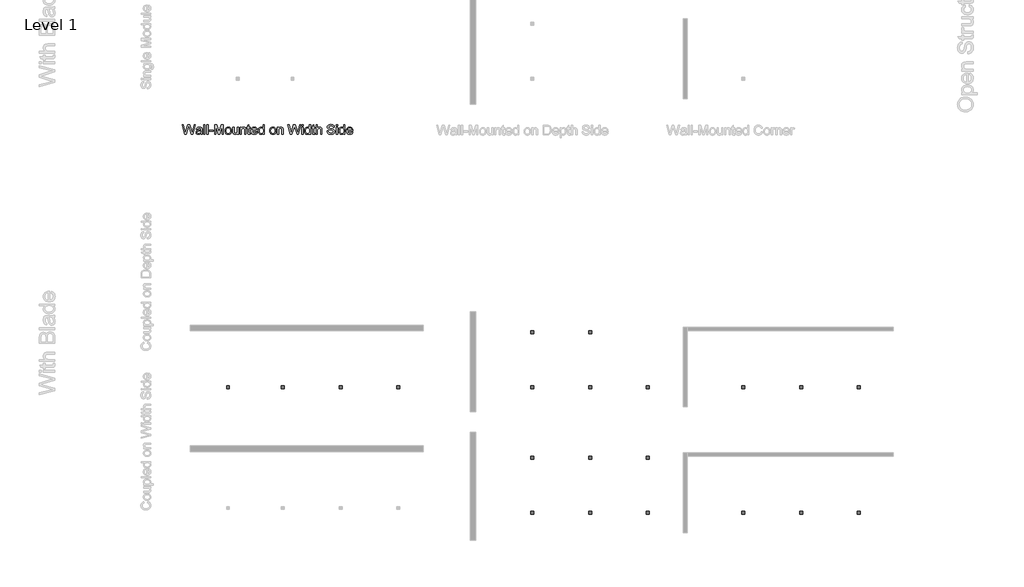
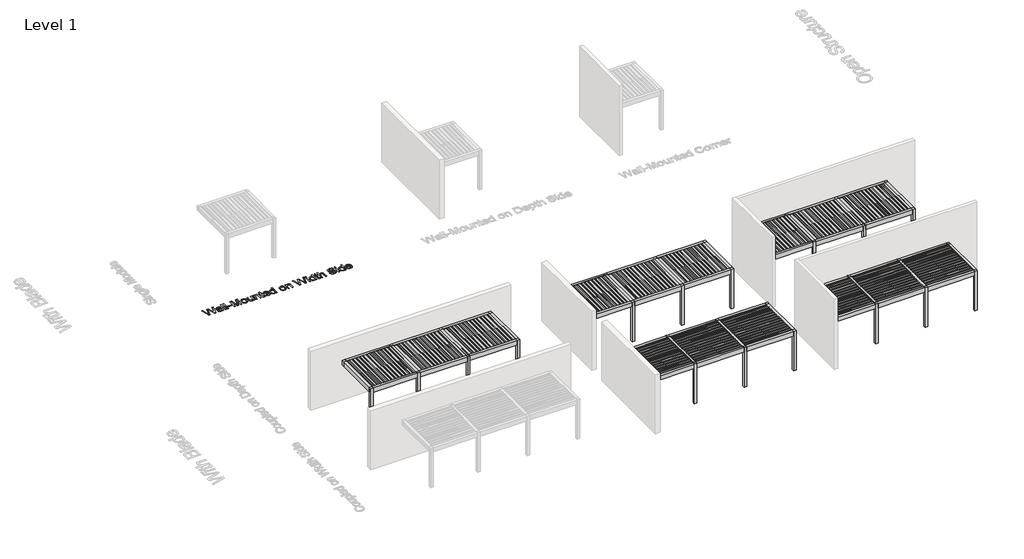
# One storey, part 58 of 80: 6 proxies.
"""IFC4 building model written with IfcOpenShell, lengths in millimetres."""

from ifc_helpers import new_model, si_unit, origin, origin_with_axes, place, context, project, spatial, polyline, outline, extrude, transform, mapped, element, save
from components import generic_models_d71375b3, generic_models_6e23cace, generic_models_89963777, generic_models_5a9e4830, generic_models_91610d27

model = new_model("IFC4")

# Units and contexts
model_context = context("Model", 3, world=origin())
ifc_project = project(units=[si_unit("LENGTHUNIT", "METRE", prefix="MILLI")], contexts=[model_context])

# Site, building, storey
site = spatial("IfcSite", under=ifc_project)
building = spatial("IfcBuilding", under=site)
storey = spatial("IfcBuildingStorey", under=building, Name="Level 1", Elevation=0.0)

# Proxies
placement = place(None, origin())
generic_models_shape = generic_models_d71375b3(model_context)
element("IfcBuildingElementProxy", 1, Name="Renson_Amani_Patio_Cover : Renson_Amani_Patio_Cover", ObjectType="Renson_Amani_Patio_Cover : Renson_Amani_Patio_Cover", at=placement, inside=storey, context=model_context, shape_type="MappedRepresentation", body=[
    mapped(generic_models_shape, transform((131453.165057, 51509.4960358, 0.0), x_axis=(1.0, 0.0, 0.0), y_axis=(0.0, 1.0, 0.0), z_axis=(0.0, 0.0, 1.0))),
])
generic_models_2_shape = generic_models_6e23cace(model_context)
element("IfcBuildingElementProxy", 2, Name="Renson_Amani_Patio_Cover : Renson_Amani_Patio_Cover", ObjectType="Renson_Amani_Patio_Cover : Renson_Amani_Patio_Cover", at=placement, inside=storey, context=model_context, shape_type="MappedRepresentation", body=[
    mapped(generic_models_2_shape, transform((144410.3328818, 51509.4960358, 0.0), x_axis=(1.0, 0.0, 0.0), y_axis=(0.0, 1.0, 0.0), z_axis=(0.0, 0.0, 1.0))),
])
generic_models_3_shape = generic_models_89963777(model_context)
element("IfcBuildingElementProxy", 3, Name="Renson_Amani_Patio_Cover : Renson_Amani_Patio_Cover", ObjectType="Renson_Amani_Patio_Cover : Renson_Amani_Patio_Cover", at=placement, inside=storey, context=model_context, shape_type="MappedRepresentation", body=[
    mapped(generic_models_3_shape, transform((144410.3328818, 44984.0685101, 0.0), x_axis=(1.0, 0.0, 0.0), y_axis=(0.0, 1.0, 0.0), z_axis=(0.0, 0.0, 1.0))),
])
generic_models_4_shape = generic_models_5a9e4830(model_context)
element("IfcBuildingElementProxy", 4, Name="Renson_Amani_Patio_Cover : Renson_Amani_Patio_Cover", ObjectType="Renson_Amani_Patio_Cover : Renson_Amani_Patio_Cover", at=placement, inside=storey, context=model_context, shape_type="MappedRepresentation", body=[
    mapped(generic_models_4_shape, transform((155374.0111744, 44984.0685101, 0.0), x_axis=(1.0, 0.0, 0.0), y_axis=(0.0, 1.0, 0.0), z_axis=(0.0, 0.0, 1.0))),
])
generic_models_5_shape = generic_models_91610d27(model_context)
element("IfcBuildingElementProxy", 5, Name="Renson_Amani_Patio_Cover : Renson_Amani_Patio_Cover", ObjectType="Renson_Amani_Patio_Cover : Renson_Amani_Patio_Cover", at=placement, inside=storey, context=model_context, shape_type="MappedRepresentation", body=[
    mapped(generic_models_5_shape, transform((155374.0111744, 51509.4960358, 0.0), x_axis=(1.0, 0.0, 0.0), y_axis=(0.0, 1.0, 0.0), z_axis=(0.0, 0.0, 1.0))),
])
element("IfcBuildingElementProxy", 6, Name="500mm Arial", ObjectType="500mm Arial", at=placement, inside=storey, context=model_context, shape_type="SweptSolid", body=[
    extrude(outline(polyline([(127785.7582965, 63218.3083036), (127648.783567, 63720.5898543), (127713.5307981, 63720.5898543), (127792.9933091, 63390.4770773), (127817.5187754, 63288.5737646), (127843.7610244, 63378.7048535), (127943.3344178, 63720.5898543), (128036.6538172, 63720.5898543), (128109.0039429, 63472.7600169), (128139.998001, 63380.7895181), (128162.8373416, 63288.5737646), (128186.6270439, 63387.5340213), (128266.8253189, 63720.5898543), (128331.57255, 63720.5898543), (128194.4751932, 63218.3083036), (128127.3980427, 63218.3083036), (128006.9780029, 63605.8106718), (127990.1780585, 63659.8893251), (127971.2934494, 63594.774212), (127861.5419875, 63218.3083036), (127785.7582965, 63218.3083036)])), origin_with_axes(), (0.0, 0.0, 1.0), 5.0),
    extrude(outline(polyline([(128621.9540716, 63265.3971989), (128591.9563605, 63239.6761161), (128561.0696013, 63222.8455148), (128528.5886869, 63213.5564945), (128493.8085099, 63210.4601543), (128465.8533104, 63212.3225569), (128441.3393403, 63217.9097647), (128420.2665998, 63227.2217777), (128402.6350888, 63240.2585959), (128388.7130545, 63256.1924849), (128378.7687443, 63274.19571), (128372.8021582, 63294.2682714), (128370.8132962, 63316.4101689), (128373.8176658, 63342.4378201), (128382.8307747, 63366.0742383), (128396.7336484, 63386.307748), (128414.4073126, 63402.1266738), (128435.1773169, 63414.0828387), (128458.369211, 63422.7280656), (128512.693119, 63432.1703701), (128576.8885271, 63442.103184), (128621.5861896, 63453.7527805), (128621.9540716, 63467.7322963), (128617.6314581, 63495.7526416), (128604.6636178, 63514.0854277), (128591.5884785, 63522.0255474), (128575.6622538, 63527.6970615), (128535.256548, 63532.2342728), (128497.8552118, 63529.2145747), (128471.7355902, 63520.1554806), (128453.9239703, 63503.4015214), (128441.4466393, 63477.2972282), (128378.6614454, 63485.1453774), (128389.5599495, 63519.4810303), (128405.8233994, 63546.4590433), (128428.9693082, 63567.0910918), (128460.5151893, 63582.3888515), (128499.0968136, 63591.8618128), (128543.3499519, 63595.0194666), (128585.7943371, 63592.2296948), (128619.4402113, 63583.8603794), (128644.8087405, 63571.2757495), (128662.421091, 63555.8400341), (128674.1013444, 63536.7561556), (128681.6735821, 63513.2270364), (128684.7392654, 63458.2899918), (128684.7392654, 63380.1763814), (128687.927576, 63271.0993699), (128692.6487283, 63244.1366853), (128700.4355639, 63218.3083036), (128637.65037, 63218.3083036), (128627.5949288, 63240.1359686), (128621.9540716, 63265.3971989)]), holes=[polyline([(128621.9540716, 63390.9675866), (128579.7702694, 63380.5136066), (128520.6638955, 63371.7150956), (128466.6465559, 63361.537027), (128452.590398, 63354.5779259), (128442.1824032, 63344.9823372), (128435.7444683, 63333.4860249), (128433.59849, 63320.8247529), (128438.273657, 63302.1547416), (128452.2991581, 63286.856982), (128475.3684249, 63276.6482566), (128507.1748891, 63273.2453482), (128540.8974053, 63277.0008102), (128570.6958469, 63288.2671963), (128594.8534312, 63304.8678713), (128611.6533757, 63324.6262002), (128619.1029861, 63344.9823372), (128621.5861896, 63373.1866235), (128621.9540716, 63390.9675866)])]), origin_with_axes(), (0.0, 0.0, 1.0), 5.0),
    extrude(outline(polyline([(128771.0689069, 63218.3083036), (128771.0689069, 63720.5898543), (128833.8541008, 63720.5898543), (128833.8541008, 63218.3083036), (128771.0689069, 63218.3083036)])), origin_with_axes(), (0.0, 0.0, 1.0), 5.0),
    extrude(outline(polyline([(128928.0318915, 63218.3083036), (128928.0318915, 63720.5898543), (128990.8170854, 63720.5898543), (128990.8170854, 63218.3083036), (128928.0318915, 63218.3083036)])), origin_with_axes(), (0.0, 0.0, 1.0), 5.0),
    extrude(outline(polyline([(129053.6022792, 63367.4231389), (129053.6022792, 63430.2083328), (129249.80601, 63430.2083328), (129249.80601, 63367.4231389), (129053.6022792, 63367.4231389)])), origin_with_axes(), (0.0, 0.0, 1.0), 5.0),
    extrude(outline(polyline([(129328.2875023, 63218.3083036), (129328.2875023, 63720.5898543), (129436.3221815, 63720.5898543), (129539.0838855, 63366.5647476), (129559.8079046, 63292.6204666), (129582.2487063, 63372.6961142), (129683.2936276, 63720.5898543), (129791.3283069, 63720.5898543), (129791.3283069, 63218.3083036), (129728.543113, 63218.3083036), (129728.543113, 63657.8046605), (129602.3595887, 63218.3083036), (129517.2562205, 63218.3083036), (129391.0726961, 63657.8046605), (129391.0726961, 63218.3083036), (129328.2875023, 63218.3083036)])), origin_with_axes(), (0.0, 0.0, 1.0), 5.0),
    extrude(outline(polyline([(129877.6579484, 63402.7398105), (129881.0531927, 63450.5108204), (129891.2389254, 63491.6752828), (129908.2151466, 63526.2331977), (129931.9818564, 63554.1845652), (129955.9095145, 63572.0498346), (129982.320376, 63584.8107413), (130011.2144411, 63592.4672853), (130042.5917096, 63595.0194666), (130077.2300987, 63591.9116302), (130108.5498856, 63582.5881209), (130136.5510704, 63567.0489387), (130161.233653, 63545.2940836), (130181.3790244, 63518.0593197), (130195.7685753, 63486.0804108), (130204.4023059, 63449.3573571), (130207.2802161, 63407.8901584), (130202.1911818, 63344.4611711), (130195.829889, 63318.4258557), (130186.924079, 63296.1766592), (130175.584883, 63276.9586571), (130161.9234318, 63260.0169248), (130145.9397255, 63245.3514623), (130127.6337641, 63232.9622697), (130086.9061616, 63216.0856832), (130042.5917096, 63210.4601543), (130007.4474827, 63213.5564945), (129975.8364559, 63222.8455148), (129947.758629, 63238.3272155), (129923.2140022, 63260.0015964), (129903.2832286, 63287.5007755), (129889.0469619, 63320.4568709), (129880.5052018, 63358.8698826), (129877.6579484, 63402.7398105)]), holes=[polyline([(129940.4431423, 63402.8624378), (129942.2595596, 63372.4087064), (129947.7088117, 63346.039998), (129956.7908984, 63323.7563125), (129969.5058199, 63305.5576501), (129984.9721921, 63291.421018), (130002.3086311, 63281.3234237), (130021.515137, 63275.264867), (130042.5917096, 63273.2453482), (130063.5609833, 63275.2763634), (130082.6908471, 63281.3694089), (130099.9813008, 63291.5244848), (130115.4323446, 63305.7415911), (130128.1472661, 63324.1203624), (130137.2293529, 63346.7604335), (130142.6786049, 63373.6618044), (130144.4950223, 63404.8244751), (130142.6671086, 63434.3125163), (130137.1833676, 63459.991446), (130128.0437993, 63481.8612642), (130115.2484036, 63499.9219709), (130099.7398783, 63514.058603), (130082.4609208, 63524.1561973), (130063.4115313, 63530.2147539), (130042.5917096, 63532.2342728), (130021.515137, 63530.2224181), (130002.3086311, 63524.1868541), (129984.9721921, 63514.1275808), (129969.5058199, 63500.0445982), (129956.7908984, 63481.8995852), (129947.7088117, 63459.6542208), (129942.2595596, 63433.308505), (129940.4431423, 63402.8624378)])]), origin_with_axes(), (0.0, 0.0, 1.0), 5.0),
    extrude(outline(polyline([(130513.3580361, 63218.3083036), (130513.3580361, 63281.7066341), (130490.6413229, 63250.5362992), (130464.1844761, 63228.2717743), (130433.9874956, 63214.9130593), (130400.0503816, 63210.4601543), (130369.4701907, 63213.5871513), (130341.0053213, 63222.9681422), (130317.1236485, 63237.0702853), (130300.2930472, 63254.3607391), (130288.9653474, 63275.3606697), (130281.5923791, 63300.5912432), (130277.9135592, 63358.9618531), (130277.9135592, 63587.1713174), (130340.698753, 63587.1713174), (130340.698753, 63388.51504), (130344.5002003, 63324.5035728), (130353.6512649, 63303.1510887), (130369.332235, 63286.9182957), (130390.5007781, 63276.6635851), (130416.114562, 63273.2453482), (130443.1998739, 63276.7402271), (130468.5377463, 63287.224864), (130489.430378, 63303.7335685), (130503.1799676, 63325.3006505), (130510.813519, 63354.838509), (130513.3580361, 63395.2595432), (130513.3580361, 63587.1713174), (130576.1432299, 63587.1713174), (130576.1432299, 63218.3083036), (130513.3580361, 63218.3083036)])), origin_with_axes(), (0.0, 0.0, 1.0), 5.0),
    extrude(outline(polyline([(130662.4728715, 63218.3083036), (130662.4728715, 63587.1713174), (130725.2580653, 63587.1713174), (130725.2580653, 63535.6678381), (130747.0704019, 63561.6341756), (130773.2666657, 63580.1815595), (130803.8468565, 63591.3099898), (130838.8109745, 63595.0194666), (130869.7590473, 63592.0304254), (130898.1012894, 63583.0633018), (130921.7377076, 63569.2370701), (130938.5683088, 63551.6707049), (130949.9879791, 63530.4101912), (130957.3916043, 63505.5015145), (130960.7025422, 63444.8009853), (130960.7025422, 63218.3083036), (130897.9173484, 63218.3083036), (130897.9173484, 63436.3396994), (130896.1085952, 63468.8052854), (130890.6823358, 63491.8898806), (130880.6728799, 63508.429242), (130865.1145371, 63521.2591266), (130845.1722673, 63529.4904862), (130822.01103, 63532.2342728), (130802.9463121, 63530.6937669), (130785.2381589, 63526.0722494), (130768.8865707, 63518.3697201), (130753.8915473, 63507.5861791), (130741.3643989, 63492.4953531), (130732.4164358, 63471.8709687), (130727.0476579, 63445.713026), (130725.2580653, 63414.021525), (130725.2580653, 63218.3083036), (130662.4728715, 63218.3083036)])), origin_with_axes(), (0.0, 0.0, 1.0), 5.0),
    extrude(outline(polyline([(131180.4507207, 63270.6701742), (131188.2988699, 63216.4688936), (131141.3326019, 63210.4601543), (131111.1969351, 63213.0659851), (131088.7254765, 63220.8834775), (131072.8452371, 63232.9316129), (131062.4832276, 63248.2293725), (131056.7810566, 63274.5022783), (131054.880333, 63319.4758522), (131054.880333, 63524.3861236), (131007.7914376, 63524.3861236), (131007.7914376, 63587.1713174), (131054.880333, 63587.1713174), (131054.880333, 63676.8118969), (131117.6655268, 63713.7227237), (131117.6655268, 63587.1713174), (131180.4507207, 63587.1713174), (131180.4507207, 63524.3861236), (131117.6655268, 63524.3861236), (131117.6655268, 63321.3152622), (131120.9764648, 63288.9416466), (131131.7063563, 63277.4759911), (131153.1048257, 63273.2453482), (131180.4507207, 63270.6701742)])), origin_with_axes(), (0.0, 0.0, 1.0), 5.0),
    extrude(outline(polyline([(131501.4890751, 63328.1823928), (131563.0479957, 63320.3342436), (131553.6095232, 63295.6784857), (131540.867777, 63273.9504553), (131524.8227571, 63255.1501525), (131505.4744634, 63239.2775773), (131483.0221654, 63226.6699547), (131457.6651325, 63217.6645101), (131429.4033646, 63212.2612433), (131398.2368618, 63210.4601543), (131359.2796914, 63213.5679908), (131324.5684923, 63222.8915001), (131294.1032646, 63238.4306823), (131267.8840082, 63260.1855373), (131246.7997713, 63287.5505928), (131231.7396022, 63319.9203763), (131222.7035007, 63357.2948878), (131219.6914668, 63399.6741272), (131222.7341575, 63443.4904057), (131231.8622295, 63482.1103509), (131247.0756828, 63515.533963), (131268.3745175, 63543.761242), (131294.524796, 63566.1867153), (131324.2925808, 63582.2049105), (131357.6778719, 63591.8158276), (131394.6806692, 63595.0194666), (131430.4916822, 63591.8234918), (131462.8767941, 63582.2355673), (131491.8360049, 63566.2556931), (131517.3693146, 63543.8838693), (131538.2121289, 63515.717904), (131553.0998534, 63482.3556056), (131562.0324881, 63443.796974), (131565.010033, 63400.0420092), (131564.642151, 63383.1194374), (131282.4766607, 63383.1194374), (131286.1133275, 63358.0651407), (131293.3445079, 63336.1225125), (131304.1702021, 63317.2915529), (131318.5904099, 63301.5722618), (131335.8080537, 63289.1792371), (131355.0260558, 63280.3270766), (131376.2444163, 63275.0157803), (131399.4631351, 63273.2453482), (131432.879083, 63276.5256293), (131461.0220557, 63286.3664727), (131483.892053, 63303.3810149), (131501.4890751, 63328.1823928)]), holes=[polyline([(131282.4766607, 63445.9046312), (131502.2248391, 63445.9046312), (131493.7328964, 63479.0753245), (131477.0862361, 63502.8037132), (131459.9643949, 63515.679583), (131440.4819776, 63524.8766329), (131418.6389841, 63530.3948628), (131394.4354145, 63532.2342728), (131352.1136567, 63526.3634893), (131333.7003964, 63519.0250099), (131317.1188819, 63508.7511388), (131303.2045118, 63496.0170568), (131292.792685, 63481.2979449), (131285.8834012, 63464.593803), (131282.4766607, 63445.9046312)])]), origin_with_axes(), (0.0, 0.0, 1.0), 5.0),
    extrude(outline(polyline([(131855.3915545, 63218.3083036), (131855.3915545, 63277.5373048), (131836.6065801, 63248.1910515), (131813.8515459, 63227.2294419), (131787.1264518, 63214.6524762), (131756.4312978, 63210.4601543), (131715.841651, 63216.5302073), (131678.6855695, 63234.740366), (131647.2316589, 63263.8183721), (131623.7485249, 63302.4919668), (131609.1252156, 63349.1976518), (131604.2507791, 63402.3719285), (131608.7420051, 63454.8870833), (131622.2156832, 63502.3132038), (131632.3171097, 63523.4434259), (131644.6564849, 63541.9524888), (131659.233809, 63557.8403925), (131676.0490818, 63571.1071369), (131714.0175694, 63589.0413842), (131756.1860431, 63595.0194666), (131786.9041897, 63590.7428384), (131814.0661437, 63577.9129539), (131837.0894252, 63558.2465955), (131855.3915545, 63533.4605461), (131855.3915545, 63720.5898543), (131918.1767483, 63720.5898543), (131918.1767483, 63218.3083036), (131855.3915545, 63218.3083036)]), holes=[polyline([(131667.035973, 63402.6171831), (131668.8064051, 63372.1711159), (131674.1177014, 63345.8254001), (131682.9698619, 63323.5800357), (131695.3628866, 63305.4350228), (131710.1624727, 63291.3520401), (131726.2343174, 63281.2927668), (131743.5784206, 63275.2572028), (131762.1947824, 63273.2453482), (131780.8992826, 63275.1652323), (131798.139919, 63280.9248848), (131813.9166916, 63290.5243056), (131828.2296005, 63303.9634948), (131840.1129554, 63321.3497512), (131848.601066, 63342.7903737), (131853.6939324, 63368.2853624), (131855.3915545, 63397.8347172), (131853.6632755, 63430.2313254), (131848.4784387, 63458.0140803), (131839.8370439, 63481.1829817), (131827.7390912, 63499.7380299), (131813.1119498, 63513.9551361), (131796.8829888, 63524.1102121), (131779.0522084, 63530.2032576), (131759.6196084, 63532.2342728), (131740.6353646, 63530.2837318), (131723.2912614, 63524.4321088), (131707.5872987, 63514.6794038), (131693.5234766, 63501.0256169), (131681.9351938, 63483.1718438), (131673.6578489, 63460.8191805), (131668.6914419, 63433.9676269), (131667.035973, 63402.6171831)])]), origin_with_axes(), (0.0, 0.0, 1.0), 5.0),
    extrude(outline(polyline([(132192.8619714, 63402.7398105), (132196.2572156, 63450.5108204), (132206.4429484, 63491.6752828), (132223.4191696, 63526.2331977), (132247.1858794, 63554.1845652), (132271.1135375, 63572.0498346), (132297.524399, 63584.8107413), (132326.4184641, 63592.4672853), (132357.7957326, 63595.0194666), (132392.4341217, 63591.9116302), (132423.7539086, 63582.5881209), (132451.7550934, 63567.0489387), (132476.437676, 63545.2940836), (132496.5830474, 63518.0593197), (132510.9725983, 63486.0804108), (132519.6063289, 63449.3573571), (132522.4842391, 63407.8901584), (132517.3952048, 63344.4611711), (132511.033912, 63318.4258557), (132502.128102, 63296.1766592), (132490.7889059, 63276.9586571), (132477.1274548, 63260.0169248), (132461.1437485, 63245.3514623), (132442.8377871, 63232.9622697), (132402.1101846, 63216.0856832), (132357.7957326, 63210.4601543), (132322.6515057, 63213.5564945), (132291.0404789, 63222.8455148), (132262.962652, 63238.3272155), (132238.4180251, 63260.0015964), (132218.4872516, 63287.5007755), (132204.2509848, 63320.4568709), (132195.7092248, 63358.8698826), (132192.8619714, 63402.7398105)]), holes=[polyline([(132255.6471652, 63402.8624378), (132257.4635826, 63372.4087064), (132262.9128346, 63346.039998), (132271.9949214, 63323.7563125), (132284.7098429, 63305.5576501), (132300.1762151, 63291.421018), (132317.5126541, 63281.3234237), (132336.7191599, 63275.264867), (132357.7957326, 63273.2453482), (132378.7650063, 63275.2763634), (132397.89487, 63281.3694089), (132415.1853238, 63291.5244848), (132430.6363676, 63305.7415911), (132443.3512891, 63324.1203624), (132452.4333758, 63346.7604335), (132457.8826279, 63373.6618044), (132459.6990452, 63404.8244751), (132457.8711316, 63434.3125163), (132452.3873906, 63459.991446), (132443.2478223, 63481.8612642), (132430.4524266, 63499.9219709), (132414.9439013, 63514.058603), (132397.6649438, 63524.1561973), (132378.6155542, 63530.2147539), (132357.7957326, 63532.2342728), (132336.7191599, 63530.2224181), (132317.5126541, 63524.1868541), (132300.1762151, 63514.1275808), (132284.7098429, 63500.0445982), (132271.9949214, 63481.8995852), (132262.9128346, 63459.6542208), (132257.4635826, 63433.308505), (132255.6471652, 63402.8624378)])]), origin_with_axes(), (0.0, 0.0, 1.0), 5.0),
    extrude(outline(polyline([(132593.1175822, 63218.3083036), (132593.1175822, 63587.1713174), (132655.902776, 63587.1713174), (132655.902776, 63535.6678381), (132677.7151126, 63561.6341756), (132703.9113764, 63580.1815595), (132734.4915672, 63591.3099898), (132769.4556852, 63595.0194666), (132800.403758, 63592.0304254), (132828.7460001, 63583.0633018), (132852.3824183, 63569.2370701), (132869.2130195, 63551.6707049), (132880.6326898, 63530.4101912), (132888.036315, 63505.5015145), (132891.3472529, 63444.8009853), (132891.3472529, 63218.3083036), (132828.5620591, 63218.3083036), (132828.5620591, 63436.3396994), (132826.7533059, 63468.8052854), (132821.3270465, 63491.8898806), (132811.3175905, 63508.429242), (132795.7592478, 63521.2591266), (132775.816978, 63529.4904862), (132752.6557407, 63532.2342728), (132733.5910227, 63530.6937669), (132715.8828696, 63526.0722494), (132699.5312814, 63518.3697201), (132684.536258, 63507.5861791), (132672.0091096, 63492.4953531), (132663.0611465, 63471.8709687), (132657.6923686, 63445.713026), (132655.902776, 63414.021525), (132655.902776, 63218.3083036), (132593.1175822, 63218.3083036)])), origin_with_axes(), (0.0, 0.0, 1.0), 5.0),
    extrude(outline(polyline([(133271.6146086, 63218.3083036), (133134.6398791, 63720.5898543), (133199.3871102, 63720.5898543), (133278.8496212, 63390.4770773), (133303.3750875, 63288.5737646), (133329.6173365, 63378.7048535), (133429.1907299, 63720.5898543), (133522.5101293, 63720.5898543), (133594.860255, 63472.7600169), (133625.8543131, 63380.7895181), (133648.6936536, 63288.5737646), (133672.483356, 63387.5340213), (133752.681631, 63720.5898543), (133817.4288621, 63720.5898543), (133680.3315052, 63218.3083036), (133613.2543548, 63218.3083036), (133492.834315, 63605.8106718), (133476.0343706, 63659.8893251), (133457.1497615, 63594.774212), (133347.3982996, 63218.3083036), (133271.6146086, 63218.3083036)])), origin_with_axes(), (0.0, 0.0, 1.0), 5.0),
    extrude(outline(polyline([(133872.3659067, 63657.8046605), (133872.3659067, 63720.5898543), (133935.1511006, 63720.5898543), (133935.1511006, 63657.8046605), (133872.3659067, 63657.8046605)])), origin_with_axes(), (0.0, 0.0, 1.0), 5.0),
    extrude(outline(polyline([(133872.3659067, 63218.3083036), (133872.3659067, 63587.1713174), (133935.1511006, 63587.1713174), (133935.1511006, 63218.3083036), (133872.3659067, 63218.3083036)])), origin_with_axes(), (0.0, 0.0, 1.0), 5.0),
    extrude(outline(polyline([(134256.925219, 63218.3083036), (134256.925219, 63277.5373048), (134238.1402446, 63248.1910515), (134215.3852104, 63227.2294419), (134188.6601163, 63214.6524762), (134157.9649623, 63210.4601543), (134117.3753155, 63216.5302073), (134080.219234, 63234.740366), (134048.7653234, 63263.8183721), (134025.2821894, 63302.4919668), (134010.6588801, 63349.1976518), (134005.7844436, 63402.3719285), (134010.2756697, 63454.8870833), (134023.7493477, 63502.3132038), (134033.8507742, 63523.4434259), (134046.1901494, 63541.9524888), (134060.7674735, 63557.8403925), (134077.5827464, 63571.1071369), (134115.5512339, 63589.0413842), (134157.7197076, 63595.0194666), (134188.4378542, 63590.7428384), (134215.5998082, 63577.9129539), (134238.6230897, 63558.2465955), (134256.925219, 63533.4605461), (134256.925219, 63720.5898543), (134319.7104128, 63720.5898543), (134319.7104128, 63218.3083036), (134256.925219, 63218.3083036)]), holes=[polyline([(134068.5696375, 63402.6171831), (134070.3400696, 63372.1711159), (134075.6513659, 63345.8254001), (134084.5035264, 63323.5800357), (134096.8965511, 63305.4350228), (134111.6961372, 63291.3520401), (134127.7679819, 63281.2927668), (134145.1120851, 63275.2572028), (134163.7284469, 63273.2453482), (134182.4329471, 63275.1652323), (134199.6735835, 63280.9248848), (134215.4503562, 63290.5243056), (134229.763265, 63303.9634948), (134241.6466199, 63321.3497512), (134250.1347305, 63342.7903737), (134255.2275969, 63368.2853624), (134256.925219, 63397.8347172), (134255.19694, 63430.2313254), (134250.0121032, 63458.0140803), (134241.3707084, 63481.1829817), (134229.2727557, 63499.7380299), (134214.6456143, 63513.9551361), (134198.4166534, 63524.1102121), (134180.5858729, 63530.2032576), (134161.1532729, 63532.2342728), (134142.1690291, 63530.2837318), (134124.8249259, 63524.4321088), (134109.1209632, 63514.6794038), (134095.0571411, 63501.0256169), (134083.4688583, 63483.1718438), (134075.1915134, 63460.8191805), (134070.2251065, 63433.9676269), (134068.5696375, 63402.6171831)])]), origin_with_axes(), (0.0, 0.0, 1.0), 5.0),
    extrude(outline(polyline([(134547.3067405, 63270.6701742), (134555.1548898, 63216.4688936), (134508.1886217, 63210.4601543), (134478.0529549, 63213.0659851), (134455.5814964, 63220.8834775), (134439.7012569, 63232.9316129), (134429.3392474, 63248.2293725), (134423.6370765, 63274.5022783), (134421.7363528, 63319.4758522), (134421.7363528, 63524.3861236), (134374.6474575, 63524.3861236), (134374.6474575, 63587.1713174), (134421.7363528, 63587.1713174), (134421.7363528, 63676.8118969), (134484.5215467, 63713.7227237), (134484.5215467, 63587.1713174), (134547.3067405, 63587.1713174), (134547.3067405, 63524.3861236), (134484.5215467, 63524.3861236), (134484.5215467, 63321.3152622), (134487.8324846, 63288.9416466), (134498.5623762, 63277.4759911), (134519.9608456, 63273.2453482), (134547.3067405, 63270.6701742)])), origin_with_axes(), (0.0, 0.0, 1.0), 5.0),
    extrude(outline(polyline([(134610.0919344, 63218.3083036), (134610.0919344, 63720.5898543), (134672.8771282, 63720.5898543), (134672.8771282, 63535.9130927), (134695.9387308, 63561.7721313), (134721.8360904, 63580.2428732), (134750.5692071, 63591.3253183), (134782.1380808, 63595.0194666), (134820.0605831, 63590.9880931), (134852.6487965, 63578.8939725), (134878.3085657, 63559.6874667), (134895.4457353, 63534.3189374), (134905.1026377, 63499.4621184), (134908.3216051, 63451.7907432), (134908.3216051, 63218.3083036), (134845.5364113, 63218.3083036), (134845.5364113, 63445.2914946), (134840.5393475, 63484.5935544), (134834.2930178, 63499.6000741), (134825.5481562, 63511.5102537), (134814.5116964, 63520.5770121), (134801.3905719, 63527.053268), (134768.894329, 63532.2342728), (134742.3608401, 63528.7393938), (134717.4521633, 63518.254757), (134696.8201147, 63501.7920377), (134683.1165104, 63480.3629115), (134675.4369738, 63451.8827137), (134672.8771282, 63414.2667797), (134672.8771282, 63218.3083036), (134610.0919344, 63218.3083036)])), origin_with_axes(), (0.0, 0.0, 1.0), 5.0),
    extrude(outline(polyline([(135175.158679, 63390.9675866), (135237.9438728, 63390.9675866), (135245.1482285, 63356.126096), (135258.1773825, 63328.1210791), (135278.5028628, 63305.8948753), (135307.5961972, 63288.3898236), (135343.1581234, 63277.031467), (135382.8893789, 63273.2453482), (135417.8688253, 63276.1117621), (135448.4950014, 63284.7110037), (135473.3117076, 63298.3226375), (135490.8627445, 63316.2262279), (135501.3013961, 63336.7816344), (135504.7809466, 63358.3487164), (135502.1751158, 63379.3639754), (135494.3576234, 63397.5281489), (135478.477384, 63413.0251779), (135451.683312, 63426.0390035), (135360.2646362, 63450.0126469), (135300.2538857, 63465.8775579), (135261.8562025, 63480.9760481), (135230.6015613, 63502.098606), (135208.4519995, 63527.6970615), (135195.254233, 63557.2195916), (135190.8549774, 63590.1143734), (135196.2965653, 63626.8872445), (135212.6213288, 63661.1769121), (135224.7576025, 63676.704598), (135239.4000724, 63690.2395897), (135276.2036003, 63711.3314908), (135320.3800966, 63724.1613753), (135369.2777451, 63728.4380035), (135422.2527524, 63723.9621059), (135468.6058838, 63710.5344131), (135506.6816703, 63688.4308366), (135521.9947583, 63674.2290587), (135534.8246429, 63657.9272878), (135552.6362629, 63620.9244905), (135559.7179913, 63579.3231682), (135496.9327974, 63579.3231682), (135492.7328113, 63599.3574085), (135485.4058282, 63616.785818), (135474.9518482, 63631.6083967), (135461.3708712, 63643.8251447), (135444.4099784, 63653.3747481), (135423.8162509, 63660.1958934), (135371.7302917, 63665.6528097), (135318.4180593, 63660.2572071), (135298.0389296, 63653.5127039), (135281.8444576, 63644.0703993), (135269.5050823, 63632.7197069), (135260.6912428, 63620.2500401), (135255.4029392, 63606.6613989), (135253.6401713, 63591.9537833), (135258.637235, 63567.8268558), (135273.6284263, 63548.4210806), (135287.3933443, 63539.7911821), (135309.0677252, 63531.0693131), (135376.1448757, 63513.3496637), (135445.3680044, 63496.5190624), (135487.2452382, 63481.8344394), (135523.0370907, 63459.0564126), (135548.0070811, 63430.9440968), (135562.6763756, 63397.8040604), (135567.5661405, 63359.9428717), (135561.9406116, 63321.2386201), (135545.0640251, 63284.833631), (135517.6261596, 63253.5023478), (135480.316794, 63230.0192137), (135435.450519, 63215.3499192), (135385.3419255, 63210.4601543), (135323.8289903, 63215.7331296), (135297.1537135, 63222.3243487), (135273.1992307, 63231.5520554), (135251.8199218, 63243.4315782), (135232.870167, 63257.9782454), (135216.3499661, 63275.1920571), (135202.2593193, 63295.0730132), (135190.9086269, 63316.9773204), (135182.6082894, 63340.261185), (135177.3583067, 63364.9246071), (135175.158679, 63390.9675866)])), origin_with_axes(), (0.0, 0.0, 1.0), 5.0),
    extrude(outline(polyline([(135653.895782, 63657.8046605), (135653.895782, 63720.5898543), (135716.6809759, 63720.5898543), (135716.6809759, 63657.8046605), (135653.895782, 63657.8046605)])), origin_with_axes(), (0.0, 0.0, 1.0), 5.0),
    extrude(outline(polyline([(135653.895782, 63218.3083036), (135653.895782, 63587.1713174), (135716.6809759, 63587.1713174), (135716.6809759, 63218.3083036), (135653.895782, 63218.3083036)])), origin_with_axes(), (0.0, 0.0, 1.0), 5.0),
    extrude(outline(polyline([(136038.4550943, 63218.3083036), (136038.4550943, 63277.5373048), (136019.6701199, 63248.1910515), (135996.9150857, 63227.2294419), (135970.1899916, 63214.6524762), (135939.4948376, 63210.4601543), (135898.9051908, 63216.5302073), (135861.7491093, 63234.740366), (135830.2951987, 63263.8183721), (135806.8120647, 63302.4919668), (135792.1887554, 63349.1976518), (135787.3143189, 63402.3719285), (135791.805545, 63454.8870833), (135805.279223, 63502.3132038), (135815.3806495, 63523.4434259), (135827.7200247, 63541.9524888), (135842.2973488, 63557.8403925), (135859.1126217, 63571.1071369), (135897.0811093, 63589.0413842), (135939.2495829, 63595.0194666), (135969.9677295, 63590.7428384), (135997.1296835, 63577.9129539), (136020.1529651, 63558.2465955), (136038.4550943, 63533.4605461), (136038.4550943, 63720.5898543), (136101.2402882, 63720.5898543), (136101.2402882, 63218.3083036), (136038.4550943, 63218.3083036)]), holes=[polyline([(135850.0995128, 63402.6171831), (135851.8699449, 63372.1711159), (135857.1812412, 63345.8254001), (135866.0334017, 63323.5800357), (135878.4264264, 63305.4350228), (135893.2260125, 63291.3520401), (135909.2978572, 63281.2927668), (135926.6419604, 63275.2572028), (135945.2583222, 63273.2453482), (135963.9628224, 63275.1652323), (135981.2034588, 63280.9248848), (135996.9802315, 63290.5243056), (136011.2931403, 63303.9634948), (136023.1764952, 63321.3497512), (136031.6646058, 63342.7903737), (136036.7574722, 63368.2853624), (136038.4550943, 63397.8347172), (136036.7268154, 63430.2313254), (136031.5419785, 63458.0140803), (136022.9005837, 63481.1829817), (136010.802631, 63499.7380299), (135996.1754896, 63513.9551361), (135979.9465287, 63524.1102121), (135962.1157482, 63530.2032576), (135942.6831482, 63532.2342728), (135923.6989044, 63530.2837318), (135906.3548012, 63524.4321088), (135890.6508385, 63514.6794038), (135876.5870164, 63501.0256169), (135864.9987336, 63483.1718438), (135856.7213887, 63460.8191805), (135851.7549818, 63433.9676269), (135850.0995128, 63402.6171831)])]), origin_with_axes(), (0.0, 0.0, 1.0), 5.0),
    extrude(outline(polyline([(136453.6712395, 63328.1823928), (136515.2301601, 63320.3342436), (136505.7916876, 63295.6784857), (136493.0499414, 63273.9504553), (136477.0049215, 63255.1501525), (136457.6566278, 63239.2775773), (136435.2043298, 63226.6699547), (136409.8472969, 63217.6645101), (136381.585529, 63212.2612433), (136350.4190262, 63210.4601543), (136311.4618558, 63213.5679908), (136276.7506567, 63222.8915001), (136246.285429, 63238.4306823), (136220.0661726, 63260.1855373), (136198.9819358, 63287.5505928), (136183.9217666, 63319.9203763), (136174.8856651, 63357.2948878), (136171.8736312, 63399.6741272), (136174.9163219, 63443.4904057), (136184.0443939, 63482.1103509), (136199.2578472, 63515.533963), (136220.5566819, 63543.761242), (136246.7069604, 63566.1867153), (136276.4747452, 63582.2049105), (136309.8600363, 63591.8158276), (136346.8628336, 63595.0194666), (136382.6738466, 63591.8234918), (136415.0589585, 63582.2355673), (136444.0181693, 63566.2556931), (136469.551479, 63543.8838693), (136490.3942933, 63515.717904), (136505.2820178, 63482.3556056), (136514.2146525, 63443.796974), (136517.1921974, 63400.0420092), (136516.8243154, 63383.1194374), (136234.6588251, 63383.1194374), (136238.2954919, 63358.0651407), (136245.5266724, 63336.1225125), (136256.3523665, 63317.2915529), (136270.7725743, 63301.5722618), (136287.9902181, 63289.1792371), (136307.2082202, 63280.3270766), (136328.4265807, 63275.0157803), (136351.6452995, 63273.2453482), (136385.0612474, 63276.5256293), (136413.2042201, 63286.3664727), (136436.0742174, 63303.3810149), (136453.6712395, 63328.1823928)]), holes=[polyline([(136234.6588251, 63445.9046312), (136454.4070035, 63445.9046312), (136445.9150608, 63479.0753245), (136429.2684005, 63502.8037132), (136412.1465593, 63515.679583), (136392.664142, 63524.8766329), (136370.8211485, 63530.3948628), (136346.6175789, 63532.2342728), (136304.2958211, 63526.3634893), (136285.8825608, 63519.0250099), (136269.3010463, 63508.7511388), (136255.3866762, 63496.0170568), (136244.9748494, 63481.2979449), (136238.0655656, 63464.593803), (136234.6588251, 63445.9046312)])]), origin_with_axes(), (0.0, 0.0, 1.0), 5.0),
])

save(model, "model.ifc")
